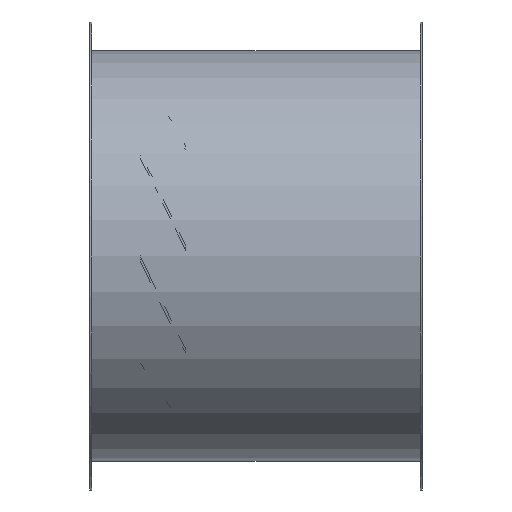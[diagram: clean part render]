
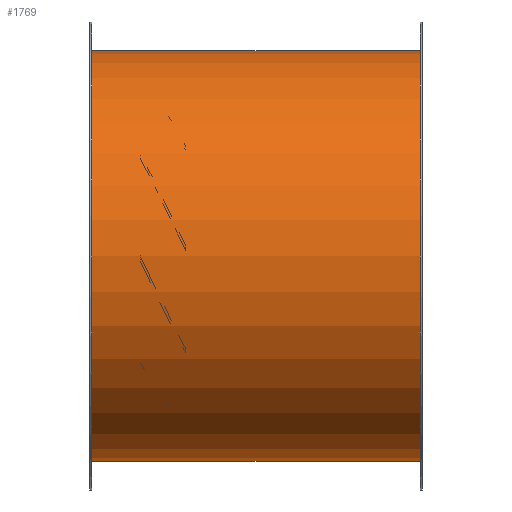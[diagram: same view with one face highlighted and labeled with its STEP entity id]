
A CAD part, front view. The second image highlights one B-rep face of the part: STEP entity #1769.
In plain terms, the highlighted cylindrical face has radius 204 mm (diameter 408 mm), a full revolution.
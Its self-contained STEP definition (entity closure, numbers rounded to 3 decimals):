
#24=LINE('',#2652,#114);
#31=LINE('',#2701,#121);
#114=VECTOR('',#2007,10.);
#121=VECTOR('',#2028,10.);
#306=FACE_BOUND('',#631,.T.);
#307=FACE_BOUND('',#632,.T.);
#308=FACE_BOUND('',#633,.T.);
#349=B_SPLINE_CURVE_WITH_KNOTS('',3,(#2399,#2400,#2401,#2402,#2403,#2404,
#2405,#2406,#2407,#2408,#2409,#2410,#2411,#2412,#2413,#2414,#2415,#2416,
#2417,#2418,#2419,#2420,#2421,#2422,#2423,#2424,#2425,#2426,#2427,#2428,
#2429,#2430,#2431,#2432,#2433,#2434,#2435,#2436),.UNSPECIFIED.,.T.,.F.,
(4,2,2,2,2,2,2,2,2,2,2,2,2,2,2,2,2,2,4),(0.,0.109,0.218,
0.436,0.792,1.147,1.488,1.829,
2.044,2.259,2.475,2.69,3.031,
3.372,3.727,4.083,4.301,4.41,
4.519),.UNSPECIFIED.);
#350=B_SPLINE_CURVE_WITH_KNOTS('',3,(#2657,#2658,#2659,#2660,#2661,#2662,
#2663,#2664,#2665,#2666),.UNSPECIFIED.,.F.,.F.,(4,2,2,2,4),(1.905,
2.13,2.355,2.608,2.861),
 .UNSPECIFIED.);
#351=B_SPLINE_CURVE_WITH_KNOTS('',3,(#2674,#2675,#2676,#2677,#2678,#2679,
#2680,#2681,#2682,#2683),.UNSPECIFIED.,.F.,.F.,(4,2,2,2,4),(-0.956,
-0.703,-0.45,-0.225,0.),
 .UNSPECIFIED.);
#352=B_SPLINE_CURVE_WITH_KNOTS('',3,(#2689,#2690,#2691,#2692,#2693,#2694,
#2695,#2696,#2697,#2698),.UNSPECIFIED.,.F.,.F.,(4,2,2,2,4),(0.,0.225,
0.45,0.703,0.956),.UNSPECIFIED.);
#353=B_SPLINE_CURVE_WITH_KNOTS('',3,(#2704,#2705,#2706,#2707,#2708,#2709,
#2710,#2711,#2712,#2713),.UNSPECIFIED.,.F.,.F.,(4,2,2,2,4),(0.949,
1.202,1.455,1.68,1.905),
 .UNSPECIFIED.);
#498=FACE_OUTER_BOUND('',#630,.T.);
#630=EDGE_LOOP('',(#1502));
#631=EDGE_LOOP('',(#1503));
#632=EDGE_LOOP('',(#1504,#1505,#1506,#1507,#1508,#1509,#1510,#1511));
#633=EDGE_LOOP('',(#1512));
#691=CIRCLE('',#1816,204.);
#692=CIRCLE('',#1823,204.);
#743=CIRCLE('',#1912,204.);
#744=CIRCLE('',#1914,204.);
#767=VERTEX_POINT('',#2398);
#782=VERTEX_POINT('',#2649);
#783=VERTEX_POINT('',#2651);
#784=VERTEX_POINT('',#2655);
#785=VERTEX_POINT('',#2668);
#786=VERTEX_POINT('',#2672);
#787=VERTEX_POINT('',#2686);
#788=VERTEX_POINT('',#2688);
#789=VERTEX_POINT('',#2703);
#912=VERTEX_POINT('',#3955);
#913=VERTEX_POINT('',#3958);
#924=EDGE_CURVE('',#767,#767,#349,.T.);
#948=EDGE_CURVE('',#783,#782,#24,.T.);
#951=EDGE_CURVE('',#784,#782,#350,.F.);
#953=EDGE_CURVE('',#784,#785,#691,.T.);
#955=EDGE_CURVE('',#786,#785,#351,.F.);
#957=EDGE_CURVE('',#787,#788,#352,.F.);
#959=EDGE_CURVE('',#786,#788,#31,.T.);
#960=EDGE_CURVE('',#783,#789,#353,.F.);
#962=EDGE_CURVE('',#787,#789,#692,.T.);
#1133=EDGE_CURVE('',#912,#912,#743,.T.);
#1134=EDGE_CURVE('',#913,#913,#744,.T.);
#1502=ORIENTED_EDGE('',*,*,#1133,.T.);
#1503=ORIENTED_EDGE('',*,*,#924,.T.);
#1504=ORIENTED_EDGE('',*,*,#948,.T.);
#1505=ORIENTED_EDGE('',*,*,#951,.F.);
#1506=ORIENTED_EDGE('',*,*,#953,.T.);
#1507=ORIENTED_EDGE('',*,*,#955,.F.);
#1508=ORIENTED_EDGE('',*,*,#959,.T.);
#1509=ORIENTED_EDGE('',*,*,#957,.F.);
#1510=ORIENTED_EDGE('',*,*,#962,.T.);
#1511=ORIENTED_EDGE('',*,*,#960,.F.);
#1512=ORIENTED_EDGE('',*,*,#1134,.F.);
#1668=CYLINDRICAL_SURFACE('',#1913,204.);
#1769=ADVANCED_FACE('',(#498,#306,#307,#308),#1668,.T.);
#1816=AXIS2_PLACEMENT_3D('',#2670,#2015,#2016);
#1823=AXIS2_PLACEMENT_3D('',#2716,#2034,#2035);
#1912=AXIS2_PLACEMENT_3D('',#3956,#2284,#2285);
#1913=AXIS2_PLACEMENT_3D('',#3957,#2286,#2287);
#1914=AXIS2_PLACEMENT_3D('',#3959,#2288,#2289);
#2007=DIRECTION('',(-1.,0.,0.));
#2015=DIRECTION('center_axis',(-1.,0.,0.));
#2016=DIRECTION('ref_axis',(0.,1.,0.));
#2028=DIRECTION('',(1.,0.,0.));
#2034=DIRECTION('center_axis',(1.,0.,0.));
#2035=DIRECTION('ref_axis',(0.,1.,0.));
#2284=DIRECTION('center_axis',(1.,0.,0.));
#2285=DIRECTION('ref_axis',(0.,0.,-1.));
#2286=DIRECTION('center_axis',(1.,0.,0.));
#2287=DIRECTION('ref_axis',(0.,1.,0.));
#2288=DIRECTION('center_axis',(1.,0.,0.));
#2289=DIRECTION('ref_axis',(0.,0.,-1.));
#2398=CARTESIAN_POINT('',(165.,124.785,-161.384));
#2399=CARTESIAN_POINT('Ctrl Pts',(165.,124.785,-161.384));
#2400=CARTESIAN_POINT('Ctrl Pts',(165.363,124.785,-161.384));
#2401=CARTESIAN_POINT('Ctrl Pts',(165.728,124.829,-161.349));
#2402=CARTESIAN_POINT('Ctrl Pts',(166.435,125.002,-161.216));
#2403=CARTESIAN_POINT('Ctrl Pts',(166.777,125.13,-161.116));
#2404=CARTESIAN_POINT('Ctrl Pts',(167.739,125.608,-160.744));
#2405=CARTESIAN_POINT('Ctrl Pts',(168.294,126.057,-160.393));
#2406=CARTESIAN_POINT('Ctrl Pts',(169.434,127.261,-159.441));
#2407=CARTESIAN_POINT('Ctrl Pts',(169.964,128.171,-158.713));
#2408=CARTESIAN_POINT('Ctrl Pts',(170.655,130.068,-157.162));
#2409=CARTESIAN_POINT('Ctrl Pts',(170.813,131.056,-156.338));
#2410=CARTESIAN_POINT('Ctrl Pts',(170.813,132.827,-154.836));
#2411=CARTESIAN_POINT('Ctrl Pts',(170.667,133.762,-154.03));
#2412=CARTESIAN_POINT('Ctrl Pts',(169.997,135.52,-152.485));
#2413=CARTESIAN_POINT('Ctrl Pts',(169.474,136.343,-151.747));
#2414=CARTESIAN_POINT('Ctrl Pts',(168.327,137.422,-150.77));
#2415=CARTESIAN_POINT('Ctrl Pts',(167.756,137.819,-150.406));
#2416=CARTESIAN_POINT('Ctrl Pts',(166.452,138.37,-149.9));
#2417=CARTESIAN_POINT('Ctrl Pts',(165.717,138.522,-149.759));
#2418=CARTESIAN_POINT('Ctrl Pts',(164.283,138.522,-149.759));
#2419=CARTESIAN_POINT('Ctrl Pts',(163.548,138.37,-149.9));
#2420=CARTESIAN_POINT('Ctrl Pts',(162.244,137.819,-150.406));
#2421=CARTESIAN_POINT('Ctrl Pts',(161.673,137.422,-150.77));
#2422=CARTESIAN_POINT('Ctrl Pts',(160.526,136.343,-151.747));
#2423=CARTESIAN_POINT('Ctrl Pts',(160.003,135.52,-152.485));
#2424=CARTESIAN_POINT('Ctrl Pts',(159.333,133.762,-154.03));
#2425=CARTESIAN_POINT('Ctrl Pts',(159.188,132.827,-154.836));
#2426=CARTESIAN_POINT('Ctrl Pts',(159.188,131.056,-156.338));
#2427=CARTESIAN_POINT('Ctrl Pts',(159.345,130.068,-157.162));
#2428=CARTESIAN_POINT('Ctrl Pts',(160.036,128.171,-158.713));
#2429=CARTESIAN_POINT('Ctrl Pts',(160.566,127.261,-159.441));
#2430=CARTESIAN_POINT('Ctrl Pts',(161.706,126.057,-160.393));
#2431=CARTESIAN_POINT('Ctrl Pts',(162.261,125.608,-160.744));
#2432=CARTESIAN_POINT('Ctrl Pts',(163.223,125.13,-161.116));
#2433=CARTESIAN_POINT('Ctrl Pts',(163.565,125.002,-161.216));
#2434=CARTESIAN_POINT('Ctrl Pts',(164.272,124.829,-161.349));
#2435=CARTESIAN_POINT('Ctrl Pts',(164.637,124.785,-161.384));
#2436=CARTESIAN_POINT('Ctrl Pts',(165.,124.785,-161.384));
#2649=CARTESIAN_POINT('',(88.5,181.568,93.));
#2651=CARTESIAN_POINT('',(241.5,181.568,93.));
#2652=CARTESIAN_POINT('',(165.,181.568,93.));
#2655=CARTESIAN_POINT('',(82.5,184.518,87.));
#2657=CARTESIAN_POINT('Ctrl Pts',(88.5,181.568,93.));
#2658=CARTESIAN_POINT('Ctrl Pts',(87.75,181.568,93.));
#2659=CARTESIAN_POINT('Ctrl Pts',(86.956,181.645,92.85));
#2660=CARTESIAN_POINT('Ctrl Pts',(85.512,181.945,92.261));
#2661=CARTESIAN_POINT('Ctrl Pts',(84.86,182.167,91.822));
#2662=CARTESIAN_POINT('Ctrl Pts',(83.773,182.689,90.781));
#2663=CARTESIAN_POINT('Ctrl Pts',(83.29,183.033,90.087));
#2664=CARTESIAN_POINT('Ctrl Pts',(82.653,183.768,88.577));
#2665=CARTESIAN_POINT('Ctrl Pts',(82.5,184.159,87.762));
#2666=CARTESIAN_POINT('Ctrl Pts',(82.5,184.518,87.));
#2668=CARTESIAN_POINT('',(82.5,184.518,-87.));
#2670=CARTESIAN_POINT('Origin',(82.5,0.,0.));
#2672=CARTESIAN_POINT('',(88.5,181.568,-93.));
#2674=CARTESIAN_POINT('Ctrl Pts',(82.5,184.518,-87.));
#2675=CARTESIAN_POINT('Ctrl Pts',(82.5,184.159,-87.762));
#2676=CARTESIAN_POINT('Ctrl Pts',(82.653,183.768,-88.577));
#2677=CARTESIAN_POINT('Ctrl Pts',(83.29,183.033,-90.087));
#2678=CARTESIAN_POINT('Ctrl Pts',(83.773,182.689,-90.781));
#2679=CARTESIAN_POINT('Ctrl Pts',(84.86,182.167,-91.822));
#2680=CARTESIAN_POINT('Ctrl Pts',(85.512,181.945,-92.261));
#2681=CARTESIAN_POINT('Ctrl Pts',(86.956,181.645,-92.85));
#2682=CARTESIAN_POINT('Ctrl Pts',(87.75,181.568,-93.));
#2683=CARTESIAN_POINT('Ctrl Pts',(88.5,181.568,-93.));
#2686=CARTESIAN_POINT('',(247.5,184.518,-87.));
#2688=CARTESIAN_POINT('',(241.5,181.568,-93.));
#2689=CARTESIAN_POINT('Ctrl Pts',(241.5,181.568,-93.));
#2690=CARTESIAN_POINT('Ctrl Pts',(242.25,181.568,-93.));
#2691=CARTESIAN_POINT('Ctrl Pts',(243.044,181.645,-92.85));
#2692=CARTESIAN_POINT('Ctrl Pts',(244.488,181.945,-92.261));
#2693=CARTESIAN_POINT('Ctrl Pts',(245.14,182.167,-91.822));
#2694=CARTESIAN_POINT('Ctrl Pts',(246.227,182.689,-90.781));
#2695=CARTESIAN_POINT('Ctrl Pts',(246.71,183.033,-90.087));
#2696=CARTESIAN_POINT('Ctrl Pts',(247.347,183.768,-88.577));
#2697=CARTESIAN_POINT('Ctrl Pts',(247.5,184.159,-87.762));
#2698=CARTESIAN_POINT('Ctrl Pts',(247.5,184.518,-87.));
#2701=CARTESIAN_POINT('',(165.,181.568,-93.));
#2703=CARTESIAN_POINT('',(247.5,184.518,87.));
#2704=CARTESIAN_POINT('Ctrl Pts',(247.5,184.518,87.));
#2705=CARTESIAN_POINT('Ctrl Pts',(247.5,184.159,87.762));
#2706=CARTESIAN_POINT('Ctrl Pts',(247.347,183.768,88.577));
#2707=CARTESIAN_POINT('Ctrl Pts',(246.71,183.033,90.087));
#2708=CARTESIAN_POINT('Ctrl Pts',(246.227,182.689,90.781));
#2709=CARTESIAN_POINT('Ctrl Pts',(245.14,182.167,91.822));
#2710=CARTESIAN_POINT('Ctrl Pts',(244.488,181.945,92.261));
#2711=CARTESIAN_POINT('Ctrl Pts',(243.044,181.645,92.85));
#2712=CARTESIAN_POINT('Ctrl Pts',(242.25,181.568,93.));
#2713=CARTESIAN_POINT('Ctrl Pts',(241.5,181.568,93.));
#2716=CARTESIAN_POINT('Origin',(247.5,0.,0.));
#3955=CARTESIAN_POINT('',(2.,204.,0.));
#3956=CARTESIAN_POINT('Origin',(2.,0.,0.));
#3957=CARTESIAN_POINT('Origin',(165.,0.,0.));
#3958=CARTESIAN_POINT('',(328.,204.,0.));
#3959=CARTESIAN_POINT('Origin',(328.,0.,0.));
